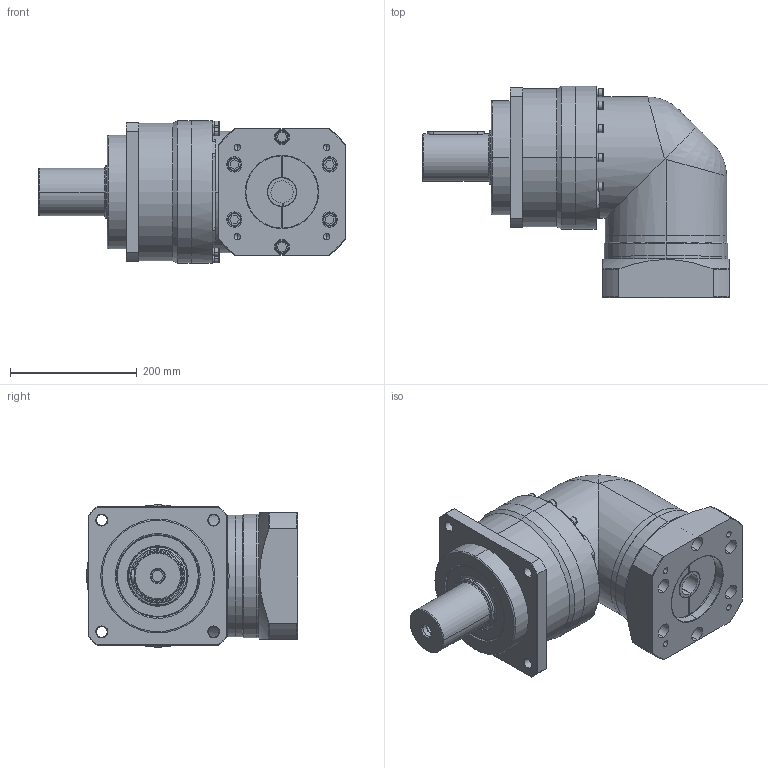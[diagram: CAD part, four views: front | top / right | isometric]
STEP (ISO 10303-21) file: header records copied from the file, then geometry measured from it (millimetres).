
FILE_DESCRIPTION (( 'STEP AP214' ), '1' );
FILE_NAME ('PAR220-L1-S2-P1 35-114.3-200-M12-81.STEP', '2023-08-22T09:20:37', ( '微软用户' ), ( '微软中国' ), 'SwSTEP 2.0', 'SolidWorks 2018', '' );
FILE_SCHEMA (( 'AUTOMOTIVE_DESIGN' ));
Length unit declared in the file: millimetre
Products named in the file (6): PAR220-8-42(奻)_1; M14-30_1; PAR220-L1-S2-P1 35-114.3-200-M12-81; PAB220输入法兰-114.3x65.5xM12_1; 输入轴调整套42-35; PAR220-10-38-180X58.5XM12_1
Assembly tree (10 placements, depth 2):
  PAR220-L1-S2-P1 35-114.3-200-M12-81
    PAR220-8-42(奻)_1
    PAB220输入法兰-114.3x65.5xM12_1
    M14-30_1  x6
    PAR220-10-38-180X58.5XM12_1
    输入轴调整套42-35
Bounding box: 484.5 x 333.75 x 225.5 mm (x, y, z)
Volume: 3284258.8 mm3; surface area: 1066274.4 mm2
Topology: 29 solids, 58 shells, 1292 faces, 3087 edges, 1931 vertices
Faces by surface type: plane 509, cylinder 481, cone 204, bspline 74, torus 24
Entity records: 51760 total; most frequent: CARTESIAN_POINT 23571, DIRECTION 5959, ORIENTED_EDGE 5540, EDGE_CURVE 2773, AXIS2_PLACEMENT_3D 2379, VERTEX_POINT 1791, EDGE_LOOP 1370, CIRCLE 1227
